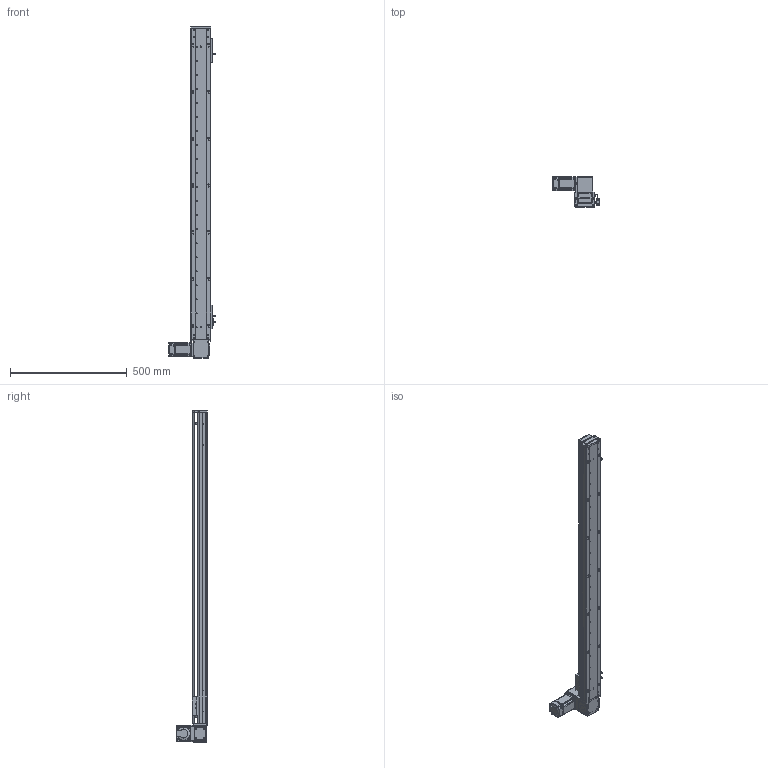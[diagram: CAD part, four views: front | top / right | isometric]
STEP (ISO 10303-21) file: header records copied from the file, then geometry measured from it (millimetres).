
FILE_DESCRIPTION (( 'STEP AP203' ), '1' );
FILE_NAME ('RY80-T-300-UL.SLDASM_1150.step', '2021-03-01T02:17:27', ( '盈信电脑' ), ( '东莞市道滘镇水果街19号' ), 'SwSTEP 2.0', 'SolidWorks 2012', '' );
FILE_SCHEMA (( 'CONFIG_CONTROL_DESIGN' ));
Length unit declared in the file: millimetre
Products named in the file (19): RY80-T-M4蹟翐2; RY80-T-300-UL.SLDASM_1150; RY80-T-上下折同步轮盖板; RY80-T肮祭謫奻殏俋欶; 1; RY80-T翋肮祭謫裔啣; 滅袉蝶18-10; RY80-T粣創揤踡輸; RY80-T肮祭湍揤輸2; RY80-T肮祭湍揤輸1; RY80-T萇儂假蚾啣; 覜茼ん672; 672嫖萇羲壽假蚾釱; RY80-T-翋肮祭謫釱; RY80俋离覜茼え; RY80-T-300-UL倰第菁釱_1150; RY80-T綴裔啣; RY80-T-300-UL倰第奻裔啣_1150; RY80-T肮祭謫臏賑輸
Assembly tree (24 placements, depth 2):
  RY80-T-300-UL.SLDASM_1150
    RY80-T-300-UL倰第菁釱_1150
    RY80-T肮祭謫臏賑輸
    RY80-T-300-UL倰第奻裔啣_1150
    RY80-T綴裔啣
    672嫖萇羲壽假蚾釱  x2
    覜茼ん672  x3
    RY80俋离覜茼え
    RY80-T-翋肮祭謫釱
    RY80-T肮祭湍揤輸1
    RY80-T肮祭湍揤輸2
    RY80-T萇儂假蚾啣
    RY80-T粣創揤踡輸  x2
    滅袉蝶18-10  x2
    RY80-T翋肮祭謫裔啣
    1
    RY80-T肮祭謫奻殏俋欶
    RY80-T-M4蹟翐2  x2
    RY80-T-上下折同步轮盖板
Bounding box: 198.7 x 130.5 x 1420 mm (x, y, z)
Volume: 2389307 mm3; surface area: 1003681.2 mm2
Topology: 24 solids, 24 shells, 2515 faces, 6920 edges, 4493 vertices
Faces by surface type: plane 1346, cylinder 964, cone 149, bspline 56
Entity records: 78541 total; most frequent: CARTESIAN_POINT 18978, ORIENTED_EDGE 12224, DIRECTION 11514, EDGE_CURVE 6112, VERTEX_POINT 4014, AXIS2_PLACEMENT_3D 3874, VECTOR 3766, LINE 3766
